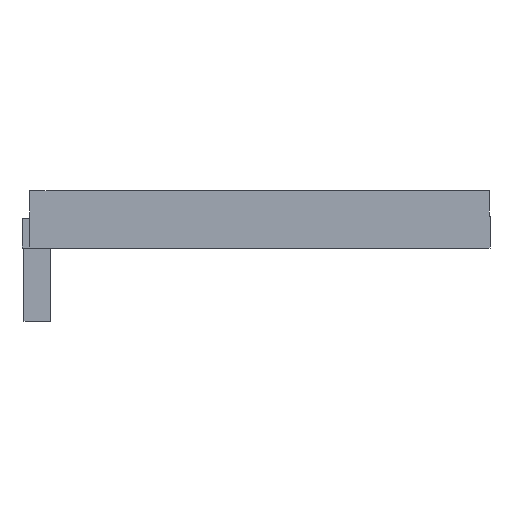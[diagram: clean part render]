
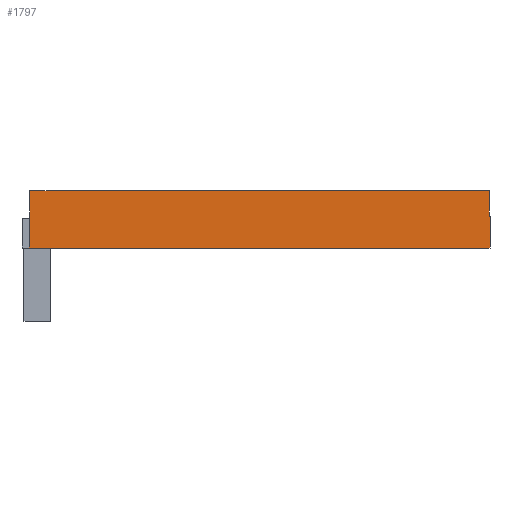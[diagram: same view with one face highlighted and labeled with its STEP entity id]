
A CAD part, front view. The second image highlights one B-rep face of the part: STEP entity #1797.
In plain terms, the highlighted planar face has unit normal (0, -1, 0).
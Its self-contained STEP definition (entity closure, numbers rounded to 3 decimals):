
#22 = VERTEX_POINT('',#23);
#23 = CARTESIAN_POINT('',(141.4,60.5,140.));
#32 = PLANE('',#33);
#33 = AXIS2_PLACEMENT_3D('',#34,#35,#36);
#34 = CARTESIAN_POINT('',(141.4,60.5,137.6));
#35 = DIRECTION('',(1.,0.,0.));
#36 = DIRECTION('',(0.,0.,1.));
#44 = PLANE('',#45);
#45 = AXIS2_PLACEMENT_3D('',#46,#47,#48);
#46 = CARTESIAN_POINT('',(141.4,60.5,140.));
#47 = DIRECTION('',(0.,0.,1.));
#48 = DIRECTION('',(1.,0.,0.));
#56 = EDGE_CURVE('',#57,#22,#59,.T.);
#57 = VERTEX_POINT('',#58);
#58 = CARTESIAN_POINT('',(141.4,60.5,137.6));
#59 = SURFACE_CURVE('',#60,(#64,#71),.PCURVE_S1.);
#60 = LINE('',#61,#62);
#61 = CARTESIAN_POINT('',(141.4,60.5,137.6));
#62 = VECTOR('',#63,1.);
#63 = DIRECTION('',(0.,0.,1.));
#64 = PCURVE('',#32,#65);
#65 = DEFINITIONAL_REPRESENTATION('',(#66),#70);
#66 = LINE('',#67,#68);
#67 = CARTESIAN_POINT('',(0.,0.));
#68 = VECTOR('',#69,1.);
#69 = DIRECTION('',(1.,0.));
#70 = ( GEOMETRIC_REPRESENTATION_CONTEXT(2) 
PARAMETRIC_REPRESENTATION_CONTEXT() REPRESENTATION_CONTEXT('2D SPACE',''
  ) );
#71 = PCURVE('',#72,#77);
#72 = PLANE('',#73);
#73 = AXIS2_PLACEMENT_3D('',#74,#75,#76);
#74 = CARTESIAN_POINT('',(158.7,60.5,139.748));
#75 = DIRECTION('',(-0.,-1.,-0.));
#76 = DIRECTION('',(0.,0.,-1.));
#77 = DEFINITIONAL_REPRESENTATION('',(#78),#82);
#78 = LINE('',#79,#80);
#79 = CARTESIAN_POINT('',(2.148,-17.3));
#80 = VECTOR('',#81,1.);
#81 = DIRECTION('',(-1.,0.));
#82 = ( GEOMETRIC_REPRESENTATION_CONTEXT(2) 
PARAMETRIC_REPRESENTATION_CONTEXT() REPRESENTATION_CONTEXT('2D SPACE',''
  ) );
#100 = PLANE('',#101);
#101 = AXIS2_PLACEMENT_3D('',#102,#103,#104);
#102 = CARTESIAN_POINT('',(156.283,72.171,137.6));
#103 = DIRECTION('',(-0.,-0.,-1.));
#104 = DIRECTION('',(-1.,0.,0.));
#217 = EDGE_CURVE('',#22,#218,#220,.T.);
#218 = VERTEX_POINT('',#219);
#219 = CARTESIAN_POINT('',(141.45,60.5,140.));
#220 = SURFACE_CURVE('',#221,(#225,#232),.PCURVE_S1.);
#221 = LINE('',#222,#223);
#222 = CARTESIAN_POINT('',(141.4,60.5,140.));
#223 = VECTOR('',#224,1.);
#224 = DIRECTION('',(1.,0.,0.));
#225 = PCURVE('',#44,#226);
#226 = DEFINITIONAL_REPRESENTATION('',(#227),#231);
#227 = LINE('',#228,#229);
#228 = CARTESIAN_POINT('',(0.,0.));
#229 = VECTOR('',#230,1.);
#230 = DIRECTION('',(1.,0.));
#231 = ( GEOMETRIC_REPRESENTATION_CONTEXT(2) 
PARAMETRIC_REPRESENTATION_CONTEXT() REPRESENTATION_CONTEXT('2D SPACE',''
  ) );
#232 = PCURVE('',#72,#233);
#233 = DEFINITIONAL_REPRESENTATION('',(#234),#238);
#234 = LINE('',#235,#236);
#235 = CARTESIAN_POINT('',(-0.252,-17.3));
#236 = VECTOR('',#237,1.);
#237 = DIRECTION('',(0.,1.));
#238 = ( GEOMETRIC_REPRESENTATION_CONTEXT(2) 
PARAMETRIC_REPRESENTATION_CONTEXT() REPRESENTATION_CONTEXT('2D SPACE',''
  ) );
#255 = PLANE('',#256);
#256 = AXIS2_PLACEMENT_3D('',#257,#258,#259);
#257 = CARTESIAN_POINT('',(141.45,60.5,139.8));
#258 = DIRECTION('',(1.,0.,0.));
#259 = DIRECTION('',(0.,0.,1.));
#293 = VERTEX_POINT('',#294);
#294 = CARTESIAN_POINT('',(175.95,60.5,140.));
#307 = PLANE('',#308);
#308 = AXIS2_PLACEMENT_3D('',#309,#310,#311);
#309 = CARTESIAN_POINT('',(175.95,60.5,139.8));
#310 = DIRECTION('',(1.,0.,0.));
#311 = DIRECTION('',(0.,0.,1.));
#318 = EDGE_CURVE('',#293,#319,#321,.T.);
#319 = VERTEX_POINT('',#320);
#320 = CARTESIAN_POINT('',(176.,60.5,140.));
#321 = SURFACE_CURVE('',#322,(#326,#333),.PCURVE_S1.);
#322 = LINE('',#323,#324);
#323 = CARTESIAN_POINT('',(141.4,60.5,140.));
#324 = VECTOR('',#325,1.);
#325 = DIRECTION('',(1.,0.,0.));
#326 = PCURVE('',#44,#327);
#327 = DEFINITIONAL_REPRESENTATION('',(#328),#332);
#328 = LINE('',#329,#330);
#329 = CARTESIAN_POINT('',(0.,0.));
#330 = VECTOR('',#331,1.);
#331 = DIRECTION('',(1.,0.));
#332 = ( GEOMETRIC_REPRESENTATION_CONTEXT(2) 
PARAMETRIC_REPRESENTATION_CONTEXT() REPRESENTATION_CONTEXT('2D SPACE',''
  ) );
#333 = PCURVE('',#72,#334);
#334 = DEFINITIONAL_REPRESENTATION('',(#335),#339);
#335 = LINE('',#336,#337);
#336 = CARTESIAN_POINT('',(-0.252,-17.3));
#337 = VECTOR('',#338,1.);
#338 = DIRECTION('',(0.,1.));
#339 = ( GEOMETRIC_REPRESENTATION_CONTEXT(2) 
PARAMETRIC_REPRESENTATION_CONTEXT() REPRESENTATION_CONTEXT('2D SPACE',''
  ) );
#357 = PLANE('',#358);
#358 = AXIS2_PLACEMENT_3D('',#359,#360,#361);
#359 = CARTESIAN_POINT('',(176.,60.5,137.6));
#360 = DIRECTION('',(1.,0.,0.));
#361 = DIRECTION('',(0.,0.,1.));
#1395 = VERTEX_POINT('',#1396);
#1396 = CARTESIAN_POINT('',(176.,60.5,137.6));
#1417 = EDGE_CURVE('',#57,#1395,#1418,.T.);
#1418 = SURFACE_CURVE('',#1419,(#1423,#1430),.PCURVE_S1.);
#1419 = LINE('',#1420,#1421);
#1420 = CARTESIAN_POINT('',(141.4,60.5,137.6));
#1421 = VECTOR('',#1422,1.);
#1422 = DIRECTION('',(1.,0.,0.));
#1423 = PCURVE('',#100,#1424);
#1424 = DEFINITIONAL_REPRESENTATION('',(#1425),#1429);
#1425 = LINE('',#1426,#1427);
#1426 = CARTESIAN_POINT('',(14.883,-11.671));
#1427 = VECTOR('',#1428,1.);
#1428 = DIRECTION('',(-1.,0.));
#1429 = ( GEOMETRIC_REPRESENTATION_CONTEXT(2) 
PARAMETRIC_REPRESENTATION_CONTEXT() REPRESENTATION_CONTEXT('2D SPACE',''
  ) );
#1430 = PCURVE('',#72,#1431);
#1431 = DEFINITIONAL_REPRESENTATION('',(#1432),#1436);
#1432 = LINE('',#1433,#1434);
#1433 = CARTESIAN_POINT('',(2.148,-17.3));
#1434 = VECTOR('',#1435,1.);
#1435 = DIRECTION('',(0.,1.));
#1436 = ( GEOMETRIC_REPRESENTATION_CONTEXT(2) 
PARAMETRIC_REPRESENTATION_CONTEXT() REPRESENTATION_CONTEXT('2D SPACE',''
  ) );
#1797 = ADVANCED_FACE('',(#1798),#72,.T.);
#1798 = FACE_BOUND('',#1799,.T.);
#1799 = EDGE_LOOP('',(#1800,#1821,#1822,#1845,#1873,#1894,#1895,#1896));
#1800 = ORIENTED_EDGE('',*,*,#1801,.T.);
#1801 = EDGE_CURVE('',#1395,#319,#1802,.T.);
#1802 = SURFACE_CURVE('',#1803,(#1807,#1814),.PCURVE_S1.);
#1803 = LINE('',#1804,#1805);
#1804 = CARTESIAN_POINT('',(176.,60.5,137.6));
#1805 = VECTOR('',#1806,1.);
#1806 = DIRECTION('',(0.,0.,1.));
#1807 = PCURVE('',#72,#1808);
#1808 = DEFINITIONAL_REPRESENTATION('',(#1809),#1813);
#1809 = LINE('',#1810,#1811);
#1810 = CARTESIAN_POINT('',(2.148,17.3));
#1811 = VECTOR('',#1812,1.);
#1812 = DIRECTION('',(-1.,0.));
#1813 = ( GEOMETRIC_REPRESENTATION_CONTEXT(2) 
PARAMETRIC_REPRESENTATION_CONTEXT() REPRESENTATION_CONTEXT('2D SPACE',''
  ) );
#1814 = PCURVE('',#357,#1815);
#1815 = DEFINITIONAL_REPRESENTATION('',(#1816),#1820);
#1816 = LINE('',#1817,#1818);
#1817 = CARTESIAN_POINT('',(0.,0.));
#1818 = VECTOR('',#1819,1.);
#1819 = DIRECTION('',(1.,0.));
#1820 = ( GEOMETRIC_REPRESENTATION_CONTEXT(2) 
PARAMETRIC_REPRESENTATION_CONTEXT() REPRESENTATION_CONTEXT('2D SPACE',''
  ) );
#1821 = ORIENTED_EDGE('',*,*,#318,.F.);
#1822 = ORIENTED_EDGE('',*,*,#1823,.T.);
#1823 = EDGE_CURVE('',#293,#1824,#1826,.T.);
#1824 = VERTEX_POINT('',#1825);
#1825 = CARTESIAN_POINT('',(175.95,60.5,141.9));
#1826 = SURFACE_CURVE('',#1827,(#1831,#1838),.PCURVE_S1.);
#1827 = LINE('',#1828,#1829);
#1828 = CARTESIAN_POINT('',(175.95,60.5,139.8));
#1829 = VECTOR('',#1830,1.);
#1830 = DIRECTION('',(0.,0.,1.));
#1831 = PCURVE('',#72,#1832);
#1832 = DEFINITIONAL_REPRESENTATION('',(#1833),#1837);
#1833 = LINE('',#1834,#1835);
#1834 = CARTESIAN_POINT('',(-0.052,17.25));
#1835 = VECTOR('',#1836,1.);
#1836 = DIRECTION('',(-1.,0.));
#1837 = ( GEOMETRIC_REPRESENTATION_CONTEXT(2) 
PARAMETRIC_REPRESENTATION_CONTEXT() REPRESENTATION_CONTEXT('2D SPACE',''
  ) );
#1838 = PCURVE('',#307,#1839);
#1839 = DEFINITIONAL_REPRESENTATION('',(#1840),#1844);
#1840 = LINE('',#1841,#1842);
#1841 = CARTESIAN_POINT('',(0.,0.));
#1842 = VECTOR('',#1843,1.);
#1843 = DIRECTION('',(1.,0.));
#1844 = ( GEOMETRIC_REPRESENTATION_CONTEXT(2) 
PARAMETRIC_REPRESENTATION_CONTEXT() REPRESENTATION_CONTEXT('2D SPACE',''
  ) );
#1845 = ORIENTED_EDGE('',*,*,#1846,.F.);
#1846 = EDGE_CURVE('',#1847,#1824,#1849,.T.);
#1847 = VERTEX_POINT('',#1848);
#1848 = CARTESIAN_POINT('',(141.45,60.5,141.9));
#1849 = SURFACE_CURVE('',#1850,(#1854,#1861),.PCURVE_S1.);
#1850 = LINE('',#1851,#1852);
#1851 = CARTESIAN_POINT('',(141.45,60.5,141.9));
#1852 = VECTOR('',#1853,1.);
#1853 = DIRECTION('',(1.,0.,0.));
#1854 = PCURVE('',#72,#1855);
#1855 = DEFINITIONAL_REPRESENTATION('',(#1856),#1860);
#1856 = LINE('',#1857,#1858);
#1857 = CARTESIAN_POINT('',(-2.152,-17.25));
#1858 = VECTOR('',#1859,1.);
#1859 = DIRECTION('',(0.,1.));
#1860 = ( GEOMETRIC_REPRESENTATION_CONTEXT(2) 
PARAMETRIC_REPRESENTATION_CONTEXT() REPRESENTATION_CONTEXT('2D SPACE',''
  ) );
#1861 = PCURVE('',#1862,#1867);
#1862 = PLANE('',#1863);
#1863 = AXIS2_PLACEMENT_3D('',#1864,#1865,#1866);
#1864 = CARTESIAN_POINT('',(141.45,60.5,141.9));
#1865 = DIRECTION('',(0.,0.,1.));
#1866 = DIRECTION('',(1.,0.,0.));
#1867 = DEFINITIONAL_REPRESENTATION('',(#1868),#1872);
#1868 = LINE('',#1869,#1870);
#1869 = CARTESIAN_POINT('',(0.,0.));
#1870 = VECTOR('',#1871,1.);
#1871 = DIRECTION('',(1.,0.));
#1872 = ( GEOMETRIC_REPRESENTATION_CONTEXT(2) 
PARAMETRIC_REPRESENTATION_CONTEXT() REPRESENTATION_CONTEXT('2D SPACE',''
  ) );
#1873 = ORIENTED_EDGE('',*,*,#1874,.F.);
#1874 = EDGE_CURVE('',#218,#1847,#1875,.T.);
#1875 = SURFACE_CURVE('',#1876,(#1880,#1887),.PCURVE_S1.);
#1876 = LINE('',#1877,#1878);
#1877 = CARTESIAN_POINT('',(141.45,60.5,139.8));
#1878 = VECTOR('',#1879,1.);
#1879 = DIRECTION('',(0.,0.,1.));
#1880 = PCURVE('',#72,#1881);
#1881 = DEFINITIONAL_REPRESENTATION('',(#1882),#1886);
#1882 = LINE('',#1883,#1884);
#1883 = CARTESIAN_POINT('',(-0.052,-17.25));
#1884 = VECTOR('',#1885,1.);
#1885 = DIRECTION('',(-1.,0.));
#1886 = ( GEOMETRIC_REPRESENTATION_CONTEXT(2) 
PARAMETRIC_REPRESENTATION_CONTEXT() REPRESENTATION_CONTEXT('2D SPACE',''
  ) );
#1887 = PCURVE('',#255,#1888);
#1888 = DEFINITIONAL_REPRESENTATION('',(#1889),#1893);
#1889 = LINE('',#1890,#1891);
#1890 = CARTESIAN_POINT('',(0.,0.));
#1891 = VECTOR('',#1892,1.);
#1892 = DIRECTION('',(1.,0.));
#1893 = ( GEOMETRIC_REPRESENTATION_CONTEXT(2) 
PARAMETRIC_REPRESENTATION_CONTEXT() REPRESENTATION_CONTEXT('2D SPACE',''
  ) );
#1894 = ORIENTED_EDGE('',*,*,#217,.F.);
#1895 = ORIENTED_EDGE('',*,*,#56,.F.);
#1896 = ORIENTED_EDGE('',*,*,#1417,.T.);
